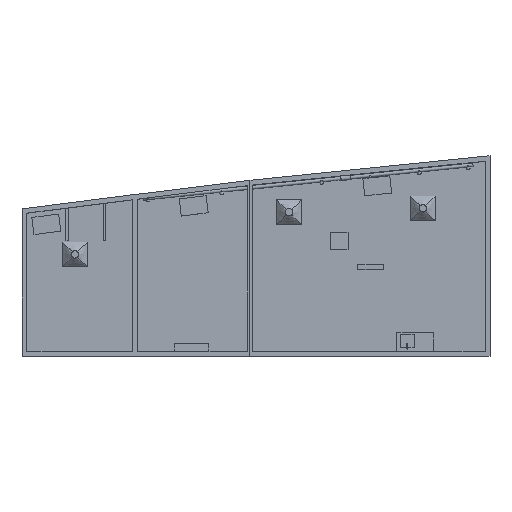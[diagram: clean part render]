
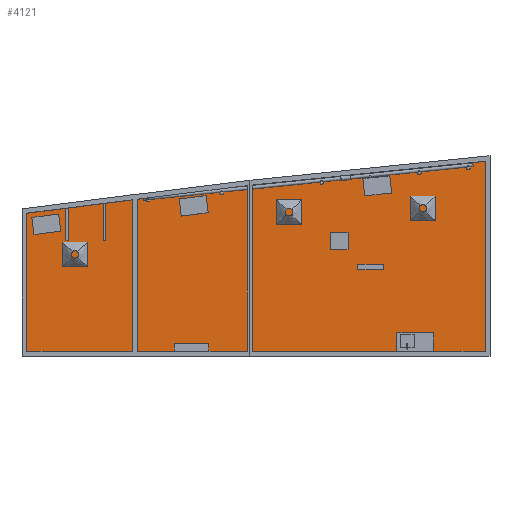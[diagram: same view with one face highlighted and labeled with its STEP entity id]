
A CAD part, top view. The second image highlights one B-rep face of the part: STEP entity #4121.
In plain terms, the highlighted planar face has unit normal (0, 0, 1).
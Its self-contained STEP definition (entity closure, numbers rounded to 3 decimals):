
#3849=CARTESIAN_POINT('Vertex',(-10133.093,-2889.5,0.)) ;
#3854=CARTESIAN_POINT('Line Origine',(-10133.093,108.618,0.)) ;
#3858=CARTESIAN_POINT('Vertex',(-10133.093,3106.735,0.)) ;
#3885=CARTESIAN_POINT('Line Origine',(-7895.491,3390.542,0.)) ;
#3889=CARTESIAN_POINT('Vertex',(-5657.888,3674.349,0.)) ;
#3916=CARTESIAN_POINT('Line Origine',(-3221.685,3974.106,0.)) ;
#3920=CARTESIAN_POINT('Vertex',(-785.482,4273.862,0.)) ;
#3947=CARTESIAN_POINT('Line Origine',(4065.712,4770.011,0.)) ;
#3951=CARTESIAN_POINT('Vertex',(8916.907,5266.16,0.)) ;
#3978=CARTESIAN_POINT('Line Origine',(8916.907,1188.33,0.)) ;
#3982=CARTESIAN_POINT('Vertex',(8916.907,-2889.5,0.)) ;
#4009=CARTESIAN_POINT('Line Origine',(-608.093,-2889.5,0.)) ;
#4040=CARTESIAN_POINT('Axis2P3D Location',(0.,0.,0.)) ;
#4053=CARTESIAN_POINT('Line Origine',(-8245.81,2484.653,0.)) ;
#4057=CARTESIAN_POINT('Vertex',(-8245.81,1824.798,0.)) ;
#4059=CARTESIAN_POINT('Vertex',(-8245.81,3144.507,0.)) ;
#4062=CARTESIAN_POINT('Line Origine',(-8295.81,1824.798,0.)) ;
#4066=CARTESIAN_POINT('Vertex',(-8345.81,1824.798,0.)) ;
#4069=CARTESIAN_POINT('Line Origine',(-8345.81,2478.311,0.)) ;
#4073=CARTESIAN_POINT('Vertex',(-8345.81,3131.824,0.)) ;
#4076=CARTESIAN_POINT('Line Origine',(-8295.81,3138.165,0.)) ;
#4087=CARTESIAN_POINT('Line Origine',(-6774.351,1824.798,0.)) ;
#4091=CARTESIAN_POINT('Vertex',(-6824.351,1824.798,0.)) ;
#4093=CARTESIAN_POINT('Vertex',(-6724.351,1824.798,0.)) ;
#4096=CARTESIAN_POINT('Line Origine',(-6824.351,2574.798,0.)) ;
#4100=CARTESIAN_POINT('Vertex',(-6824.351,3324.798,0.)) ;
#4103=CARTESIAN_POINT('Line Origine',(-6774.351,3331.14,0.)) ;
#4107=CARTESIAN_POINT('Vertex',(-6724.351,3337.482,0.)) ;
#4110=CARTESIAN_POINT('Line Origine',(-6724.351,2581.14,0.)) ;
#3855=DIRECTION('Vector Direction',(0.,-1.,0.)) ;
#3886=DIRECTION('Vector Direction',(-0.992,-0.126,0.)) ;
#3917=DIRECTION('Vector Direction',(-0.993,-0.122,0.)) ;
#3948=DIRECTION('Vector Direction',(-0.995,-0.102,0.)) ;
#3979=DIRECTION('Vector Direction',(0.,1.,0.)) ;
#4010=DIRECTION('Vector Direction',(1.,0.,0.)) ;
#4041=DIRECTION('Axis2P3D Direction',(0.,0.,-1.)) ;
#4042=DIRECTION('Axis2P3D XDirection',(1.,0.,0.)) ;
#4054=DIRECTION('Vector Direction',(0.,1.,0.)) ;
#4063=DIRECTION('Vector Direction',(1.,0.,0.)) ;
#4070=DIRECTION('Vector Direction',(0.,-1.,0.)) ;
#4077=DIRECTION('Vector Direction',(-0.992,-0.126,0.)) ;
#4088=DIRECTION('Vector Direction',(-1.,0.,0.)) ;
#4097=DIRECTION('Vector Direction',(0.,1.,0.)) ;
#4104=DIRECTION('Vector Direction',(0.992,0.126,0.)) ;
#4111=DIRECTION('Vector Direction',(0.,-1.,0.)) ;
#4043=AXIS2_PLACEMENT_3D('Plane Axis2P3D',#4040,#4041,#4042) ;
#4046=ORIENTED_EDGE('',*,*,#4013,.F.) ;
#4047=ORIENTED_EDGE('',*,*,#3984,.F.) ;
#4048=ORIENTED_EDGE('',*,*,#3953,.F.) ;
#4049=ORIENTED_EDGE('',*,*,#3922,.F.) ;
#4050=ORIENTED_EDGE('',*,*,#3891,.F.) ;
#4051=ORIENTED_EDGE('',*,*,#3860,.F.) ;
#4082=ORIENTED_EDGE('',*,*,#4061,.F.) ;
#4083=ORIENTED_EDGE('',*,*,#4068,.F.) ;
#4084=ORIENTED_EDGE('',*,*,#4075,.F.) ;
#4085=ORIENTED_EDGE('',*,*,#4080,.F.) ;
#4116=ORIENTED_EDGE('',*,*,#4095,.F.) ;
#4117=ORIENTED_EDGE('',*,*,#4102,.F.) ;
#4118=ORIENTED_EDGE('',*,*,#4109,.F.) ;
#4119=ORIENTED_EDGE('',*,*,#4114,.F.) ;
#4086=FACE_BOUND('',#4081,.T.) ;
#4120=FACE_BOUND('',#4115,.T.) ;
#3856=VECTOR('Line Direction',#3855,1.) ;
#3887=VECTOR('Line Direction',#3886,1.) ;
#3918=VECTOR('Line Direction',#3917,1.) ;
#3949=VECTOR('Line Direction',#3948,1.) ;
#3980=VECTOR('Line Direction',#3979,1.) ;
#4011=VECTOR('Line Direction',#4010,1.) ;
#4055=VECTOR('Line Direction',#4054,1.) ;
#4064=VECTOR('Line Direction',#4063,1.) ;
#4071=VECTOR('Line Direction',#4070,1.) ;
#4078=VECTOR('Line Direction',#4077,1.) ;
#4089=VECTOR('Line Direction',#4088,1.) ;
#4098=VECTOR('Line Direction',#4097,1.) ;
#4105=VECTOR('Line Direction',#4104,1.) ;
#4112=VECTOR('Line Direction',#4111,1.) ;
#4121=ADVANCED_FACE('Corps de pi\X2\00E8\X0\ce.2',(#4052,#4086,#4120),#4044,.F.) ;
#3860=EDGE_CURVE('',#3850,#3859,#3857,.F.) ;
#3891=EDGE_CURVE('',#3859,#3890,#3888,.F.) ;
#3922=EDGE_CURVE('',#3890,#3921,#3919,.F.) ;
#3953=EDGE_CURVE('',#3921,#3952,#3950,.F.) ;
#3984=EDGE_CURVE('',#3952,#3983,#3981,.F.) ;
#4013=EDGE_CURVE('',#3983,#3850,#4012,.F.) ;
#4061=EDGE_CURVE('',#4058,#4060,#4056,.T.) ;
#4068=EDGE_CURVE('',#4067,#4058,#4065,.T.) ;
#4075=EDGE_CURVE('',#4074,#4067,#4072,.T.) ;
#4080=EDGE_CURVE('',#4060,#4074,#4079,.T.) ;
#4095=EDGE_CURVE('',#4092,#4094,#4090,.F.) ;
#4102=EDGE_CURVE('',#4101,#4092,#4099,.F.) ;
#4109=EDGE_CURVE('',#4108,#4101,#4106,.F.) ;
#4114=EDGE_CURVE('',#4094,#4108,#4113,.F.) ;
#4045=EDGE_LOOP('',(#4046,#4047,#4048,#4049,#4050,#4051)) ;
#4081=EDGE_LOOP('',(#4082,#4083,#4084,#4085)) ;
#4115=EDGE_LOOP('',(#4116,#4117,#4118,#4119)) ;
#4052=FACE_OUTER_BOUND('',#4045,.T.) ;
#3857=LINE('Line',#3854,#3856) ;
#3888=LINE('Line',#3885,#3887) ;
#3919=LINE('Line',#3916,#3918) ;
#3950=LINE('Line',#3947,#3949) ;
#3981=LINE('Line',#3978,#3980) ;
#4012=LINE('Line',#4009,#4011) ;
#4056=LINE('Line',#4053,#4055) ;
#4065=LINE('Line',#4062,#4064) ;
#4072=LINE('Line',#4069,#4071) ;
#4079=LINE('Line',#4076,#4078) ;
#4090=LINE('Line',#4087,#4089) ;
#4099=LINE('Line',#4096,#4098) ;
#4106=LINE('Line',#4103,#4105) ;
#4113=LINE('Line',#4110,#4112) ;
#4044=PLANE('',#4043) ;
#3850=VERTEX_POINT('',#3849) ;
#3859=VERTEX_POINT('',#3858) ;
#3890=VERTEX_POINT('',#3889) ;
#3921=VERTEX_POINT('',#3920) ;
#3952=VERTEX_POINT('',#3951) ;
#3983=VERTEX_POINT('',#3982) ;
#4058=VERTEX_POINT('',#4057) ;
#4060=VERTEX_POINT('',#4059) ;
#4067=VERTEX_POINT('',#4066) ;
#4074=VERTEX_POINT('',#4073) ;
#4092=VERTEX_POINT('',#4091) ;
#4094=VERTEX_POINT('',#4093) ;
#4101=VERTEX_POINT('',#4100) ;
#4108=VERTEX_POINT('',#4107) ;
